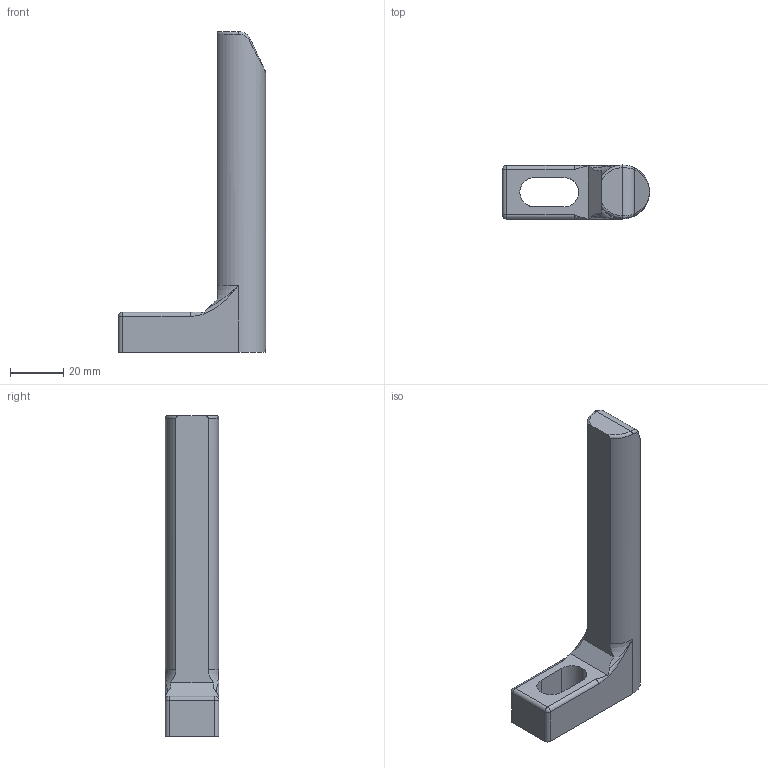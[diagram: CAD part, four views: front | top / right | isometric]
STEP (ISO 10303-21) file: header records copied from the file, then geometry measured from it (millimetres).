
FILE_DESCRIPTION(('CATIA V5 STEP Exchange'),'2;1');
FILE_NAME('C:\Users\Utente\Desktop\IO LAVORO\3D X SITO CF\X SITO\704\704-5.stp','2020-11-29T12:21:51+00:00',('none'),('none'),'CATIA Version 5 Release 20 GA (IN-10)','CATIA V5 STEP AP203','none');
FILE_SCHEMA(('CONFIG_CONTROL_DESIGN'));
Length unit declared in the file: millimetre
Products named in the file (1): 704-5
Bounding box: 55 x 20 x 120 mm (x, y, z)
Volume: 43544.6 mm3; surface area: 10914.4 mm2
Topology: 1 solids, 1 shells, 35 faces, 91 edges, 54 vertices
Faces by surface type: cylinder 12, plane 11, bspline 6, torus 4, sphere 2
Entity records: 1418 total; most frequent: CARTESIAN_POINT 648, ORIENTED_EDGE 174, DIRECTION 111, EDGE_CURVE 87, VERTEX_POINT 54, AXIS2_PLACEMENT_3D 50, EDGE_LOOP 37, ADVANCED_FACE 35
